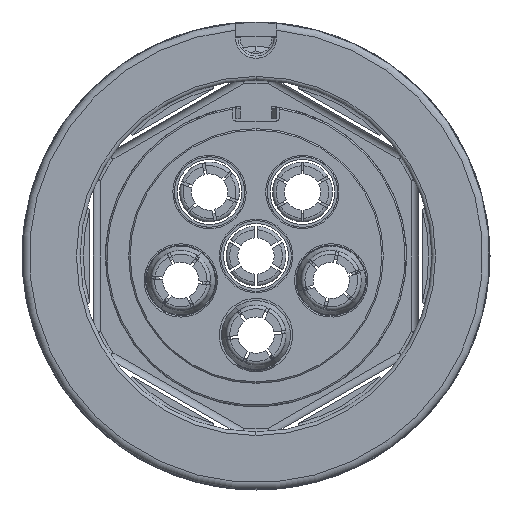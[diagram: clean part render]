
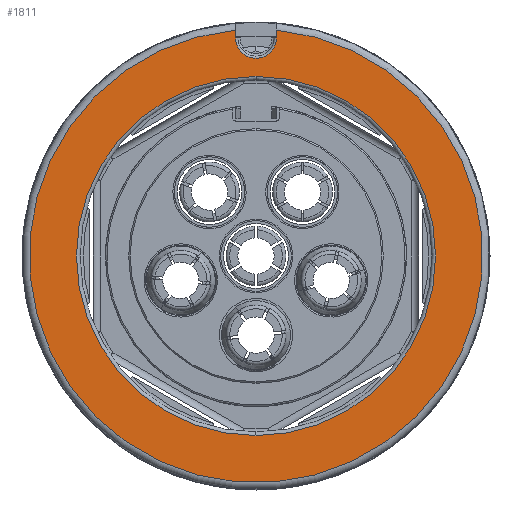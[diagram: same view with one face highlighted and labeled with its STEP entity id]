
A CAD part, front view. The second image highlights one B-rep face of the part: STEP entity #1811.
In plain terms, the highlighted planar face has unit normal (0, -1, 0).
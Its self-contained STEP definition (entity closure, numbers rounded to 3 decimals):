
#471=CARTESIAN_POINT('',(0.,14.5,0.));
#472=DIRECTION('',(0.,-1.,0.));
#473=DIRECTION('',(-0.09,0.,0.996));
#474=AXIS2_PLACEMENT_3D('',#471,#472,#473);
#492=CARTESIAN_POINT('',(0.,14.5,0.));
#493=DIRECTION('',(0.,-1.,0.));
#494=DIRECTION('',(0.,0.,-1.));
#495=AXIS2_PLACEMENT_3D('',#492,#493,#494);
#497=CARTESIAN_POINT('',(0.,14.5,0.));
#498=DIRECTION('',(0.,-1.,0.));
#499=DIRECTION('',(0.,0.,1.));
#500=AXIS2_PLACEMENT_3D('',#497,#498,#499);
#502=DIRECTION('',(0.,0.,1.));
#503=VECTOR('',#502,1.074);
#504=CARTESIAN_POINT('',(2.8,14.5,30.05));
#505=LINE('',#504,#503);
#506=DIRECTION('',(0.,0.,-1.));
#507=VECTOR('',#506,1.074);
#508=CARTESIAN_POINT('',(-2.8,14.5,31.124));
#509=LINE('',#508,#507);
#510=CARTESIAN_POINT('',(0.,14.5,30.05));
#511=DIRECTION('',(0.,1.,0.));
#512=DIRECTION('',(1.,0.,0.));
#513=AXIS2_PLACEMENT_3D('',#510,#511,#512);
#1137=CARTESIAN_POINT('',(2.8,14.5,31.124));
#1138=CARTESIAN_POINT('',(2.8,14.5,30.05));
#1139=VERTEX_POINT('',#1137);
#1140=VERTEX_POINT('',#1138);
#1141=CARTESIAN_POINT('',(-2.8,14.5,31.124));
#1142=VERTEX_POINT('',#1141);
#1195=CARTESIAN_POINT('',(0.,14.5,-24.75));
#1196=CARTESIAN_POINT('',(0.,14.5,24.75));
#1197=VERTEX_POINT('',#1195);
#1198=VERTEX_POINT('',#1196);
#1217=CARTESIAN_POINT('',(-2.8,14.5,30.05));
#1218=VERTEX_POINT('',#1217);
#1793=CARTESIAN_POINT('',(0.,14.5,0.));
#1794=DIRECTION('',(0.,1.,0.));
#1795=DIRECTION('',(0.,0.,-1.));
#1796=AXIS2_PLACEMENT_3D('',#1793,#1794,#1795);
#1797=PLANE('',#1796);
#1799=ORIENTED_EDGE('',*,*,#1798,.T.);
#1800=ORIENTED_EDGE('',*,*,#1786,.F.);
#1802=ORIENTED_EDGE('',*,*,#1801,.T.);
#1803=ORIENTED_EDGE('',*,*,#1551,.F.);
#1804=EDGE_LOOP('',(#1799,#1800,#1802,#1803));
#1805=FACE_OUTER_BOUND('',#1804,.F.);
#1806=ORIENTED_EDGE('',*,*,#1337,.T.);
#1808=ORIENTED_EDGE('',*,*,#1807,.T.);
#1809=EDGE_LOOP('',(#1806,#1808));
#1810=FACE_BOUND('',#1809,.F.);
#1811=ADVANCED_FACE('',(#1805,#1810),#1797,.F.);
#475=CIRCLE('',#474,31.25);
#496=CIRCLE('',#495,24.75);
#501=CIRCLE('',#500,24.75);
#514=CIRCLE('',#513,2.8);
#1337=EDGE_CURVE('',#1197,#1198,#496,.T.);
#1551=EDGE_CURVE('',#1140,#1218,#514,.T.);
#1786=EDGE_CURVE('',#1142,#1139,#475,.T.);
#1798=EDGE_CURVE('',#1140,#1139,#505,.T.);
#1801=EDGE_CURVE('',#1142,#1218,#509,.T.);
#1807=EDGE_CURVE('',#1198,#1197,#501,.T.);
